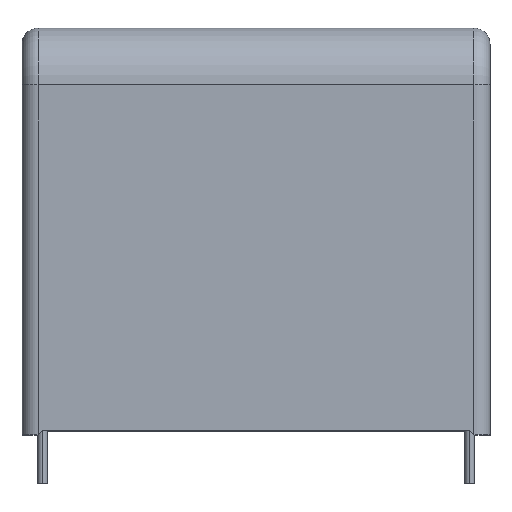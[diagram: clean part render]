
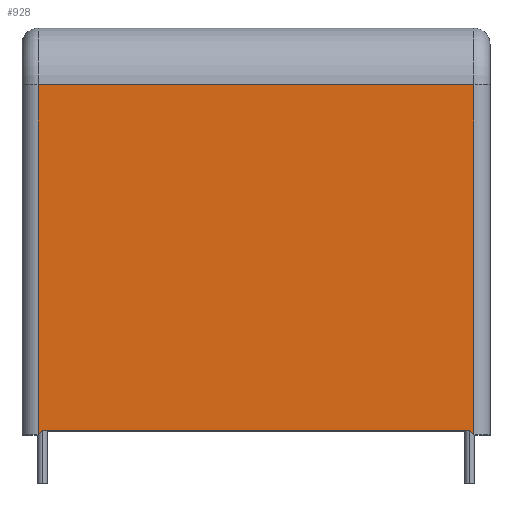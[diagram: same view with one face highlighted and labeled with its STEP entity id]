
A CAD part, top view. The second image highlights one B-rep face of the part: STEP entity #928.
In plain terms, the highlighted planar face has unit normal (0, 0, 1).
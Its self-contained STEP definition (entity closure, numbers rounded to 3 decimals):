
#34 = EDGE_CURVE ( 'NONE', #2464, #2422, #1793, .T. ) ;
#42 = EDGE_CURVE ( 'NONE', #2456, #2464, #1803, .T. ) ;
#62 = EDGE_CURVE ( 'NONE', #2456, #2656, #1779, .T. ) ;
#63 = EDGE_CURVE ( 'NONE', #2656, #2659, #1699, .T. ) ;
#68 = EDGE_CURVE ( 'NONE', #2659, #2662, #1694, .T. ) ;
#71 = EDGE_CURVE ( 'NONE', #2422, #2662, #1678, .T. ) ;
#121 = CARTESIAN_POINT ( 'NONE',  ( -26.25, 0.5, 17.5 ) ) ;
#384 = ORIENTED_EDGE ( 'NONE', *, *, #34, .F. ) ;
#553 = ORIENTED_EDGE ( 'NONE', *, *, #42, .F. ) ;
#928 = ADVANCED_FACE ( 'NONE', ( #2583 ), #3156, .F. ) ;
#965 = ORIENTED_EDGE ( 'NONE', *, *, #62, .T. ) ;
#1041 = CARTESIAN_POINT ( 'NONE',  ( -26.75, 0., 17.5 ) ) ;
#1102 = ORIENTED_EDGE ( 'NONE', *, *, #63, .T. ) ;
#1109 = ORIENTED_EDGE ( 'NONE', *, *, #68, .T. ) ;
#1415 = ORIENTED_EDGE ( 'NONE', *, *, #71, .F. ) ;
#1435 = DIRECTION ( 'NONE',  ( 0., -1., 0. ) ) ;
#1526 = DIRECTION ( 'NONE',  ( -0.707, -0.707, 0. ) ) ;
#1534 = CARTESIAN_POINT ( 'NONE',  ( -26.75, 0., 17.5 ) ) ;
#1648 = VECTOR ( 'NONE', #1526, 1000. ) ;
#1651 = CARTESIAN_POINT ( 'NONE',  ( -26.75, 50., 17.5 ) ) ;
#1673 = VECTOR ( 'NONE', #1435, 1000. ) ;
#1678 = LINE ( 'NONE', #1534, #1648 ) ;
#1680 = VECTOR ( 'NONE', #1682, 1000. ) ;
#1682 = DIRECTION ( 'NONE',  ( -1., 0., 0. ) ) ;
#1686 = DIRECTION ( 'NONE',  ( 0., 0., -1. ) ) ;
#1694 = LINE ( 'NONE', #1651, #1673 ) ;
#1699 = LINE ( 'NONE', #1768, #1680 ) ;
#1708 = VECTOR ( 'NONE', #2228, 1000. ) ;
#1733 = CARTESIAN_POINT ( 'NONE',  ( 26.75, 43., 17.5 ) ) ;
#1741 = VECTOR ( 'NONE', #2467, 1000. ) ;
#1759 = VECTOR ( 'NONE', #2908, 1000. ) ;
#1768 = CARTESIAN_POINT ( 'NONE',  ( -28.75, 43., 17.5 ) ) ;
#1775 = AXIS2_PLACEMENT_3D ( 'NONE', #1978, #1686, #3722 ) ;
#1778 = CARTESIAN_POINT ( 'NONE',  ( 26.75, 50., 17.5 ) ) ;
#1779 = LINE ( 'NONE', #1778, #1708 ) ;
#1793 = LINE ( 'NONE', #2974, #1759 ) ;
#1803 = LINE ( 'NONE', #2249, #1741 ) ;
#1978 = CARTESIAN_POINT ( 'NONE',  ( -28.75, 50., 17.5 ) ) ;
#2228 = DIRECTION ( 'NONE',  ( 0., 1., 0. ) ) ;
#2249 = CARTESIAN_POINT ( 'NONE',  ( 26.25, 0.5, 17.5 ) ) ;
#2389 = CARTESIAN_POINT ( 'NONE',  ( -26.75, 43., 17.5 ) ) ;
#2391 = EDGE_LOOP ( 'NONE', ( #384, #553, #965, #1102, #1109, #1415 ) ) ;
#2422 = VERTEX_POINT ( 'NONE', #121 ) ;
#2456 = VERTEX_POINT ( 'NONE', #2941 ) ;
#2464 = VERTEX_POINT ( 'NONE', #3208 ) ;
#2467 = DIRECTION ( 'NONE',  ( -0.707, 0.707, 0. ) ) ;
#2583 = FACE_OUTER_BOUND ( 'NONE', #2391, .T. ) ;
#2656 = VERTEX_POINT ( 'NONE', #1733 ) ;
#2659 = VERTEX_POINT ( 'NONE', #2389 ) ;
#2662 = VERTEX_POINT ( 'NONE', #1041 ) ;
#2908 = DIRECTION ( 'NONE',  ( -1., 0., 0. ) ) ;
#2941 = CARTESIAN_POINT ( 'NONE',  ( 26.75, 0., 17.5 ) ) ;
#2974 = CARTESIAN_POINT ( 'NONE',  ( -26.25, 0.5, 17.5 ) ) ;
#3156 = PLANE ( 'NONE',  #1775 ) ;
#3208 = CARTESIAN_POINT ( 'NONE',  ( 26.25, 0.5, 17.5 ) ) ;
#3722 = DIRECTION ( 'NONE',  ( -1., 0., 0. ) ) ;
